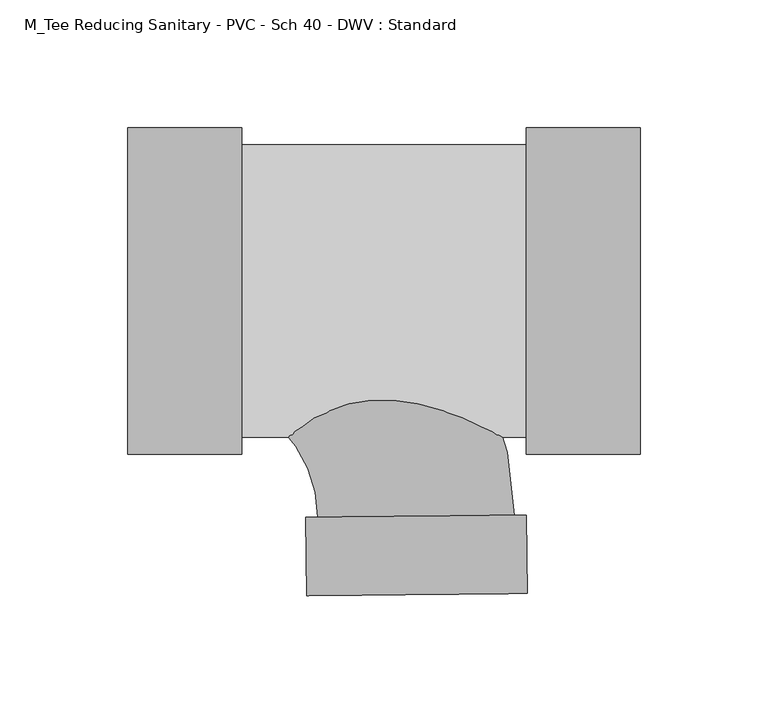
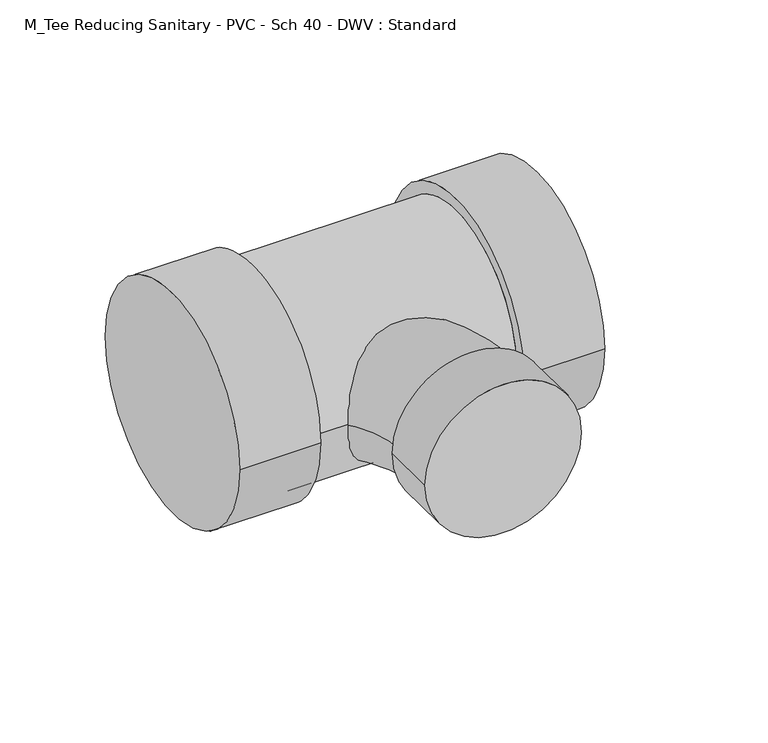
"""IFC4 building model written with IfcOpenShell, lengths in millimetres: pipe fitting geometry, M_Tee Reducing Sanitary - PVC - Sch 40 - DWV : Standard."""

from ifc_helpers import new_model, si_unit, point, frame, origin, place, context, project, spatial, circle_curve, ellipse_curve, trimmed, source, transform, mapped, element, save
from ifc_brep_helpers import plane_surface, cylinder_surface, revolved_surface, advanced_brep


def m_tee_reducing_sanitary_pvc_sch_40_dwv_standard_35af4ecc(model_context):
    return source(origin(), model_context, "Body", "AdvancedBrep", [
        advanced_brep(
        [(43.9643878, -63.754, 0.0), (43.9643878, 63.754, 0.0), (43.9643878, -57.15, 0.0), (43.9643878, 57.15, 0.0), (88.4143878, -63.754, 0.0), (88.4143878, 63.754, 0.0), (-67.2099062, 57.15, 0.0), (-67.2099062, -57.15, 0.0), (-111.6599063, -63.754, 0.0), (-111.6599062, 63.754, 0.0), (-67.2099063, -63.754, 0.0), (-67.2099062, 63.754, 0.0)],
        [
            (0, 1, circle_curve(frame((43.9643878, 0.0, 0.0), z_axis=(-1.0, 0.0, 0.0), x_axis=(0.0, 1.0, 0.0)), 63.754)),
            (1, 0, circle_curve(frame((43.9643878, 0.0, 0.0), z_axis=(-1.0, 0.0, 0.0), x_axis=(0.0, 1.0, 0.0)), 63.754)),
            (2, 3, circle_curve(frame((43.9643878, 0.0, 0.0), z_axis=(1.0, 0.0, 0.0), x_axis=(0.0, 0.0, -1.0)), 57.15)),
            (3, 2, circle_curve(frame((43.9643878, 0.0, 0.0), z_axis=(1.0, 0.0, 0.0), x_axis=(0.0, 0.0, 1.0)), 57.15)),
            (4, 5, circle_curve(frame((88.4143878, 0.0, 0.0), z_axis=(1.0, 0.0, 0.0), x_axis=(0.0, 1.0, 0.0)), 63.754)),
            (5, 4, circle_curve(frame((88.4143878, 0.0, 0.0), z_axis=(1.0, 0.0, 0.0), x_axis=(0.0, 1.0, 0.0)), 63.754)),
            (0, 4),
            (5, 1),
            (6, 3),
            (2, 7),
            (7, 6, circle_curve(frame((-67.2099063, 0.0, 0.0), z_axis=(1.0, 0.0, 0.0), x_axis=(0.0, 0.0, -1.0)), 57.15)),
            (6, 7, circle_curve(frame((-67.2099062, 0.0, 0.0), z_axis=(1.0, 0.0, 0.0), x_axis=(0.0, 0.0, 1.0)), 57.15)),
            (8, 9, circle_curve(frame((-111.6599062, 0.0, 0.0), z_axis=(-1.0, 0.0, 0.0), x_axis=(0.0, 1.0, 0.0)), 63.754)),
            (9, 8, circle_curve(frame((-111.6599062, 0.0, 0.0), z_axis=(-1.0, 0.0, 0.0), x_axis=(0.0, 1.0, 0.0)), 63.754)),
            (10, 11, circle_curve(frame((-67.2099062, 0.0, 0.0), z_axis=(1.0, 0.0, 0.0), x_axis=(0.0, 1.0, 0.0)), 63.754)),
            (11, 10, circle_curve(frame((-67.2099062, 0.0, 0.0), z_axis=(1.0, 0.0, 0.0), x_axis=(0.0, 1.0, 0.0)), 63.754)),
            (8, 10),
            (11, 9),
        ],
        [
            plane_surface(frame((43.9643878, 0.0, 0.0), z_axis=(-1.0, 0.0, 0.0), x_axis=(0.0, 0.0, 1.0))),
            plane_surface(frame((88.4143878, 0.0, 0.0), z_axis=(1.0, 0.0, 0.0), x_axis=(0.0, 0.0, 1.0))),
            cylinder_surface(frame((43.9643878, 0.0, 0.0), z_axis=(-1.0, 0.0, 0.0), x_axis=(0.0, 1.0, 0.0)), 63.754),
            cylinder_surface(frame((-67.2099062, 0.0, 0.0), z_axis=(1.0, 0.0, 0.0), x_axis=(0.0, 0.0, -1.0)), 57.15),
            cylinder_surface(frame((-67.2099062, 0.0, 0.0), z_axis=(1.0, 0.0, 0.0), x_axis=(0.0, 0.0, 1.0)), 57.15),
            plane_surface(frame((-111.6599062, 0.0, 0.0), z_axis=(-1.0, 0.0, 0.0), x_axis=(0.0, 0.0, 1.0))),
            plane_surface(frame((-67.2099062, 0.0, 0.0), z_axis=(1.0, 0.0, 0.0), x_axis=(0.0, 0.0, 1.0))),
            cylinder_surface(frame((-111.6599062, 0.0, 0.0), z_axis=(-1.0, 0.0, 0.0), x_axis=(0.0, 1.0, 0.0)), 63.754),
        ],
        [
            (0, [[1, 2], [3, 4]]),
            (1, [[5, 6]]),
            (2, [[-1, 7, -6, 8]]),
            (2, [[-2, -8, -5, -7]]),
            (3, [[9, -3, 10, 11]]),
            (4, [[-9, 12, -10, -4]]),
            (5, [[13, 14]]),
            (6, [[15, 16], [-11, -12]]),
            (7, [[-13, 17, -16, 18]]),
            (7, [[-14, -18, -15, -17]]),
        ],
    ),
        advanced_brep(
        [(-42.2055226, -88.3741087, 0.0), (43.9643878, -87.5124096, 0.0), (39.241577, -87.5596378, 0.0), (-37.4827118, -88.3268806, 0.0), (-41.8998347, -118.9428928, 0.0), (44.2700756, -118.0811937, 0.0), (-87.9476562, -38.3640625, 0.0), (-87.9476562, 38.3640625, 0.0)],
        [
            (0, 1, circle_curve(frame((0.8794326, -87.9432592, 0.0), z_axis=(-0.009999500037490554, 0.9999500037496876, 0.0), x_axis=(0.9999500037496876, 0.009999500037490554, 0.0)), 43.0871094)),
            (1, 0, circle_curve(frame((0.8794326, -87.9432592, 0.0), z_axis=(-0.009999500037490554, 0.9999500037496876, 0.0), x_axis=(0.9999500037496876, 0.009999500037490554, 0.0)), 43.0871094)),
            (2, 3, circle_curve(frame((0.8794326, -87.9432592, 0.0), z_axis=(0.009999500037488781, -0.9999500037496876, 0.0), x_axis=(0.9999500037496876, 0.009999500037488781, 0.0)), 38.3640625)),
            (3, 2, circle_curve(frame((0.8794326, -87.9432592, 0.0), z_axis=(0.009999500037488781, -0.9999500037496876, 0.0), x_axis=(0.9999500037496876, 0.009999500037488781, 0.0)), 38.3640625)),
            (4, 5, circle_curve(frame((1.1851204, -118.5120433, 0.0), z_axis=(0.009999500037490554, -0.9999500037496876, 0.0), x_axis=(0.9999500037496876, 0.009999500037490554, 0.0)), 43.0871094)),
            (5, 4, circle_curve(frame((1.1851204, -118.5120433, 0.0), z_axis=(0.009999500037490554, -0.9999500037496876, 0.0), x_axis=(0.9999500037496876, 0.009999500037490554, 0.0)), 43.0871094)),
            (0, 4),
            (5, 1),
            (6, 7, circle_curve(frame((-87.9476562, 0.0, 0.0), z_axis=(-1.0, 0.0, 0.0), x_axis=(0.0, 1.0, 0.0)), 38.3640625)),
            (7, 6, circle_curve(frame((-87.9476562, 0.0, 0.0), z_axis=(-1.0, 0.0, 0.0), x_axis=(0.0, 1.0, 0.0)), 38.3640625)),
            (6, 3, circle_curve(frame((-87.9476562, -88.8315301, 0.0), z_axis=(0.0, 0.0, -1.0), x_axis=(0.0, 1.0, 0.0)), 50.4674676)),
            (2, 7, circle_curve(frame((-87.9476562, -88.8315301, 0.0), z_axis=(0.0, 0.0, 1.0), x_axis=(0.0, 1.0, 0.0)), 127.1955926)),
        ],
        [
            plane_surface(frame((0.8794326, -87.9432592, 0.0), z_axis=(-0.009999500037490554, 0.9999500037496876, 0.0), x_axis=(0.0, 0.0, 1.0))),
            plane_surface(frame((1.1851204, -118.5120433, 0.0), z_axis=(0.009999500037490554, -0.9999500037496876, 0.0), x_axis=(0.0, 0.0, 1.0))),
            cylinder_surface(frame((0.8794326, -87.9432592, 0.0), z_axis=(-0.009999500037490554, 0.9999500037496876, 0.0), x_axis=(0.9999500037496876, 0.009999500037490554, 0.0)), 43.0871094),
            plane_surface(frame((-87.9476562, 0.0, 0.0), z_axis=(-1.0, 0.0, 0.0), x_axis=(0.0, 0.0, 1.0))),
            revolved_surface(trimmed(ellipse_curve(frame((-87.9476562, 0.0, 0.0), z_axis=(-1.0, 0.0, 0.0), x_axis=(0.0, 1.0, 0.0)), 38.3640625, 38.3640625), [point((-87.9476562, -38.3640625, 0.0))], [point((-87.9476562, 38.3640625, 0.0))], True, "CARTESIAN"), (-87.9476562, -88.8315301, 0.0), (0.0, 0.0, -1.0)),
            revolved_surface(trimmed(ellipse_curve(frame((-87.9476562, 0.0, 0.0), z_axis=(-1.0, 0.0, 0.0), x_axis=(0.0, 1.0, 0.0)), 38.3640625, 38.3640625), [point((-87.9476562, 38.3640625, 0.0))], [point((-87.9476562, -38.3640625, 0.0))], True, "CARTESIAN"), (-87.9476562, -88.8315301, 0.0), (0.0, 0.0, -1.0)),
        ],
        [
            (0, [[1, 2], [3, 4]]),
            (1, [[5, 6]]),
            (2, [[-1, 7, -6, 8]]),
            (2, [[-2, -8, -5, -7]]),
            (3, [[9, 10]]),
            (4, [[-9, 11, -3, 12]]),
            (5, [[-10, -12, -4, -11]]),
        ],
    ),
    ])


if __name__ == "__main__":
    model = new_model("IFC4")
    model_context = context("Model", 3, world=origin())
    ifc_project = project(units=[si_unit("LENGTHUNIT", "METRE", prefix="MILLI")], contexts=[model_context])
    site = spatial("IfcSite", under=ifc_project)
    building = spatial("IfcBuilding", under=site)
    placement = place(None, origin())
    m_tee_reducing_sanitary_pvc_sch_40_dwv_standard_shape = m_tee_reducing_sanitary_pvc_sch_40_dwv_standard_35af4ecc(model_context)
    element("IfcPipeFitting", 1, ObjectType="M_Tee Reducing Sanitary - PVC - Sch 40 - DWV : Standard", at=placement, inside=building, context=model_context, shape_type="MappedRepresentation", body=[
        mapped(m_tee_reducing_sanitary_pvc_sch_40_dwv_standard_shape, transform((0.0, 0.0, 0.0), x_axis=(1.0, 0.0, 0.0), y_axis=(0.0, 1.0, 0.0), z_axis=(0.0, 0.0, 1.0))),
    ])
    save(model, "model.ifc")
